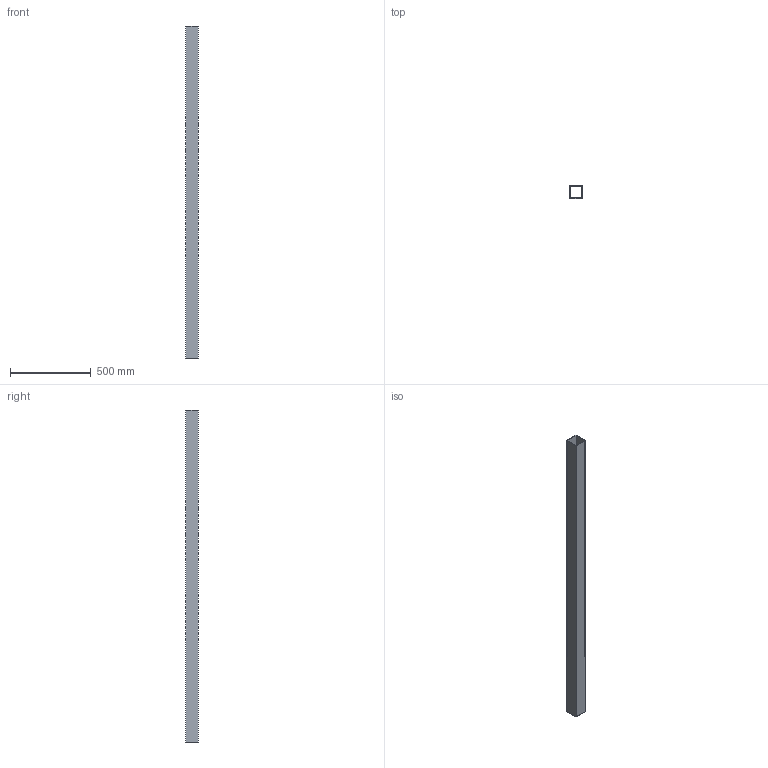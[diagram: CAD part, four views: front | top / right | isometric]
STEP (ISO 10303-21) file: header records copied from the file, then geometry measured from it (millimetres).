
FILE_DESCRIPTION(('Open CASCADE Model'),'2;1');
FILE_NAME('Open CASCADE Shape Model','2026-10-15T15:10:04',('Author'),( 'Open CASCADE'),'Open CASCADE STEP processor 8.0','Open CASCADE 8.0' ,'Unknown');
FILE_SCHEMA(('AUTOMOTIVE_DESIGN { 1 0 10303 214 1 1 1 1 }'));
Length unit declared in the file: millimetre
Products named in the file (1): SHS80x80x4_L2050000_P05 17
Bounding box: 80 x 80 x 2050 mm (x, y, z)
Volume: 2492800 mm3; surface area: 1248832 mm2
Topology: 1 solids, 1 shells, 10 faces, 24 edges, 16 vertices
Faces by surface type: plane 10
Entity records: 614 total; most frequent: CARTESIAN_POINT 99, DIRECTION 94, LINE 72, VECTOR 72, ORIENTED_EDGE 48, PCURVE 48, DEFINITIONAL_REPRESENTATION 48, EDGE_CURVE 24
